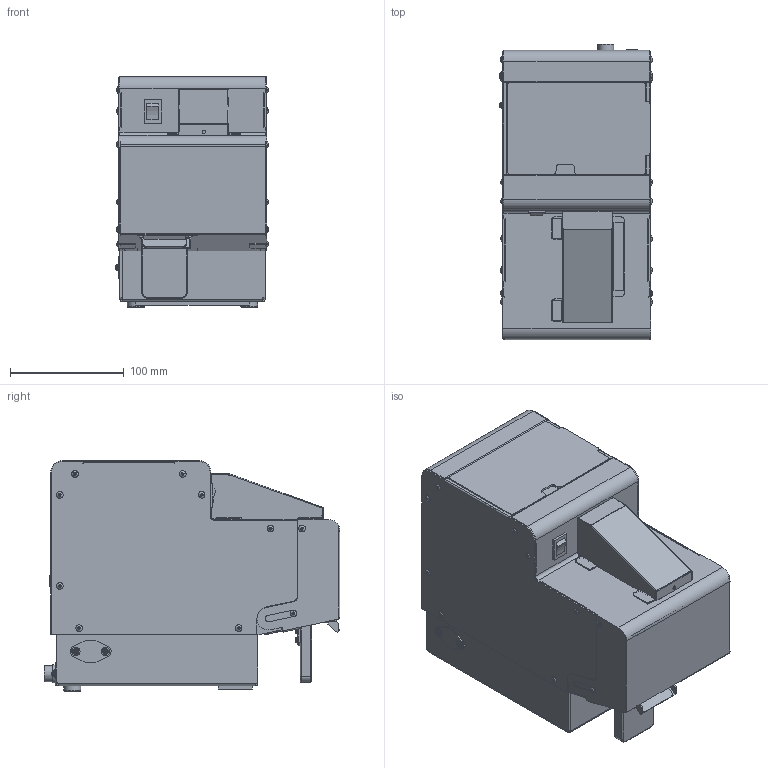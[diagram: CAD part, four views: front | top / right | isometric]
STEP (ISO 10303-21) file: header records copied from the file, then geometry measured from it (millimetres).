
FILE_DESCRIPTION(/* description */ (''),/* implementation_level */ '2;1');
FILE_NAME(/* name */ '',/* time_stamp */ '2024-07-30T13:59:55+09:00',/* author */ ('oikawa'),/* organization */ (''),/* preprocessor_version */ 'ST-DEVELOPER v20',/* originating_system */ 'Autodesk Inventor 2025',/* authorisation */ '');
FILE_SCHEMA (('CONFIG_CONTROL_DESIGN'));
Products named in the file (1): NJ66021_供給機ﾕﾆｯﾄ：FME-36
B_簡略化_1
Bounding box: 134.45 x 259.54 x 202.5 mm (x, y, z)
Volume: 5207295.9 mm3; surface area: 342050.2 mm2
Topology: 1 solids, 35 shells, 1739 faces, 4455 edges, 2935 vertices
Faces by surface type: plane 1198, cylinder 488, sphere 31, torus 18, cone 3, bspline 1
Full cylindrical faces by diameter (mm): 1 x8, 2.113 x5, 2.5 x2, 2.6 x43, 2.7 x1, 2.9 x1, 3 x15, 3.5 x1, 4.5 x12, 5 x4, 5.2 x12, 5.7 x4, 5.9 x34, 6 x2, 6.1 x1, 6.6 x1, 7 x3, 7.5 x8, 8 x1, 9 x1, 9.2 x1, 11.2 x1, 12 x1, 14.25 x1, 15 x2, 16 x1, 18 x1
Entity records: 58130 total; most frequent: CARTESIAN_POINT 12402, DIRECTION 9316, ORIENTED_EDGE 8912, EDGE_CURVE 4456, AXIS2_PLACEMENT_3D 3179, LINE 2958, VECTOR 2958, VERTEX_POINT 2935
